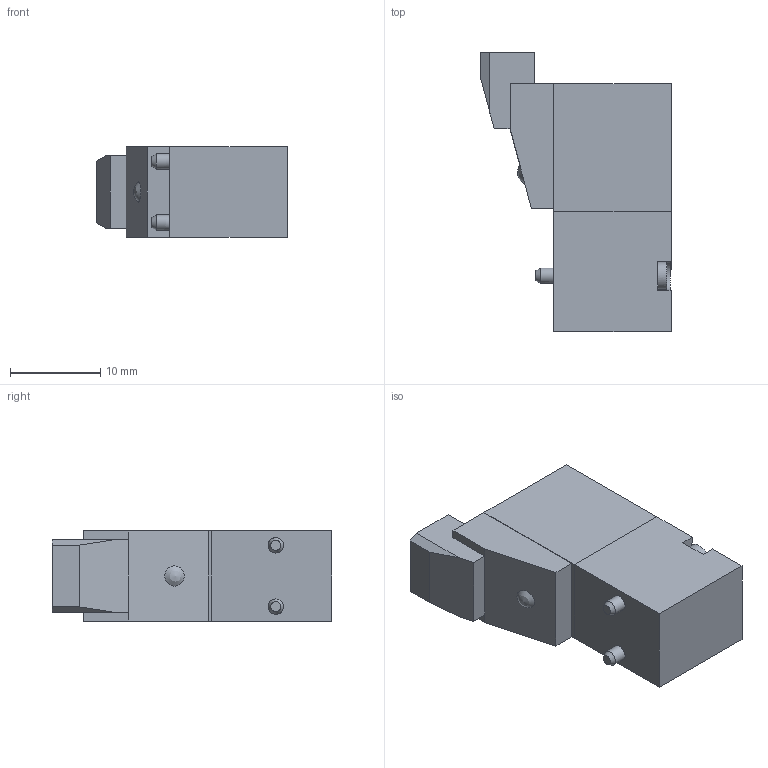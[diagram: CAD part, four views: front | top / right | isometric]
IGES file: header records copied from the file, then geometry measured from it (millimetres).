
Global section: file name: P3##.3R; native system: Autodesk Inventor 2014; preprocessor: unknown; author: A. Manieri; organization: Pneumax S.p.A.; date: 20160902.102245; units: millimetre
Bounding box: 21.1 x 31 x 10 mm (x, y, z)
Volume: 4275.6 mm3; surface area: 2048.9 mm2
Topology: 1 solids, 1 shells, 90 faces, 227 edges, 149 vertices
Faces by surface type: bspline 90
